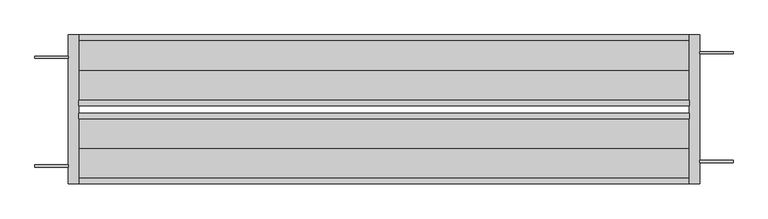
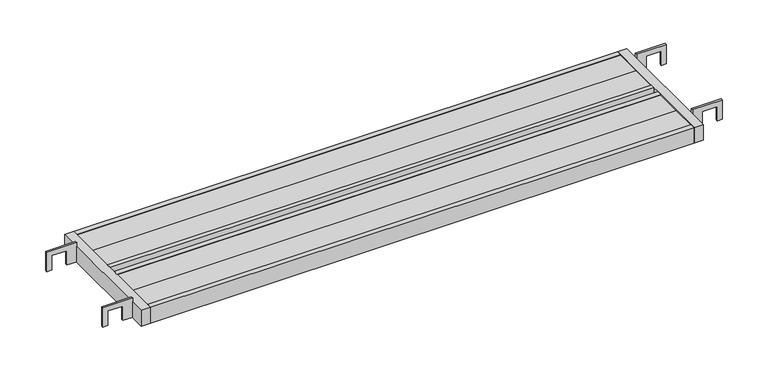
"""IFC4 building model written with IfcOpenShell, lengths in millimetres: proxy geometry, AKK布板HF-418_斜線なし_軽 : 鋼製布板 HF-418."""

from ifc_helpers import new_model, si_unit, frame, origin, place, context, project, spatial, polyline, outline, extrude, source, transform, mapped, element, save


def generic_models_952e4b3d(model_context):
    return source(origin(), model_context, "Body", "SweptSolid", [
        extrude(outline(polyline([(37.5, 1762.5), (-24.1, 1762.5), (-24.1, 1792.0), (22.0, 1792.0), (22.0, 1837.0), (-24.1, 1837.0), (-24.1, 1852.0), (37.5, 1852.0), (37.5, 1762.5)])), frame((0.0, 63.0, 0.0), z_axis=(0.0, 1.0, 0.0), x_axis=(0.0, 0.0, 1.0)), (0.0, 0.0, 1.0), 6.0),
        extrude(outline(polyline([(37.5, 1762.5), (-24.1, 1762.5), (-24.1, 1792.0), (22.0, 1792.0), (22.0, 1837.0), (-24.1, 1837.0), (-24.1, 1852.0), (37.5, 1852.0), (37.5, 1762.5)])), frame((0.0, 355.0, 0.0), z_axis=(0.0, 1.0, 0.0), x_axis=(0.0, 0.0, 1.0)), (0.0, 0.0, 1.0), 6.0),
        extrude(outline(polyline([(37.5, -23.0), (-24.1, -23.0), (-24.1, -8.0), (22.0, -8.0), (22.0, 37.0), (-24.1, 37.0), (-24.1, 66.5), (37.5, 66.5), (37.5, -23.0)])), frame((0.0, 51.0, 0.0), z_axis=(0.0, 1.0, 0.0), x_axis=(0.0, 0.0, 1.0)), (0.0, 0.0, 1.0), 6.0),
        extrude(outline(polyline([(37.5, -23.0), (-24.1, -23.0), (-24.1, -8.0), (22.0, -8.0), (22.0, 37.0), (-24.1, 37.0), (-24.1, 66.5), (37.5, 66.5), (37.5, -23.0)])), frame((0.0, 343.0, 0.0), z_axis=(0.0, 1.0, 0.0), x_axis=(0.0, 0.0, 1.0)), (0.0, 0.0, 1.0), 6.0),
        extrude(outline(polyline([(1734.5, 391.0), (1734.5, 311.0), (94.5, 311.0), (94.5, 391.0), (1734.5, 391.0)])), frame((0.0, 0.0, 20.0), z_axis=(0.0, 0.0, 1.0), x_axis=(1.0, 0.0, 0.0)), (0.0, 0.0, 1.0), 2.5),
        extrude(outline(polyline([(1734.5, 311.0), (1734.5, 231.0), (94.5, 231.0), (94.5, 311.0), (1734.5, 311.0)])), frame((0.0, 0.0, 20.0), z_axis=(0.0, 0.0, 1.0), x_axis=(1.0, 0.0, 0.0)), (0.0, 0.0, 1.0), 2.5),
        extrude(outline(polyline([(1734.5, 181.0), (1734.5, 101.0), (94.5, 101.0), (94.5, 181.0), (1734.5, 181.0)])), frame((0.0, 0.0, 20.0), z_axis=(0.0, 0.0, 1.0), x_axis=(1.0, 0.0, 0.0)), (0.0, 0.0, 1.0), 2.5),
        extrude(outline(polyline([(1734.5, 101.0), (1734.5, 21.0), (94.5, 21.0), (94.5, 101.0), (1734.5, 101.0)])), frame((0.0, 0.0, 20.0), z_axis=(0.0, 0.0, 1.0), x_axis=(1.0, 0.0, 0.0)), (0.0, 0.0, 1.0), 2.5),
        extrude(outline(polyline([(1734.5, 231.0), (1734.5, 216.0), (94.5, 216.0), (94.5, 231.0), (1734.5, 231.0)])), frame((0.0, 0.0, -25.0), z_axis=(0.0, 0.0, 1.0), x_axis=(1.0, 0.0, 0.0)), (0.0, 0.0, 1.0), 50.0),
        extrude(outline(polyline([(1734.5, 196.0), (1734.5, 181.0), (94.5, 181.0), (94.5, 196.0), (1734.5, 196.0)])), frame((0.0, 0.0, -25.0), z_axis=(0.0, 0.0, 1.0), x_axis=(1.0, 0.0, 0.0)), (0.0, 0.0, 1.0), 50.0),
        extrude(outline(polyline([(1734.5, 6.0), (1734.5, 406.0), (1762.5, 406.0), (1762.5, 6.0), (1734.5, 6.0)])), frame((0.0, 0.0, -25.0), z_axis=(0.0, 0.0, 1.0), x_axis=(1.0, 0.0, 0.0)), (0.0, 0.0, 1.0), 50.0),
        extrude(outline(polyline([(66.5, 6.0), (66.5, 406.0), (94.5, 406.0), (94.5, 6.0), (66.5, 6.0)])), frame((0.0, 0.0, -25.0), z_axis=(0.0, 0.0, 1.0), x_axis=(1.0, 0.0, 0.0)), (0.0, 0.0, 1.0), 50.0),
        extrude(outline(polyline([(1734.5, 406.0), (1734.5, 391.0), (94.5, 391.0), (94.5, 406.0), (1734.5, 406.0)])), frame((0.0, 0.0, -25.0), z_axis=(0.0, 0.0, 1.0), x_axis=(1.0, 0.0, 0.0)), (0.0, 0.0, 1.0), 50.0),
        extrude(outline(polyline([(1734.5, 21.0), (1734.5, 6.0), (94.5, 6.0), (94.5, 21.0), (1734.5, 21.0)])), frame((0.0, 0.0, -25.0), z_axis=(0.0, 0.0, 1.0), x_axis=(1.0, 0.0, 0.0)), (0.0, 0.0, 1.0), 50.0),
    ])


if __name__ == "__main__":
    model = new_model("IFC4")
    model_context = context("Model", 3, world=origin())
    ifc_project = project(units=[si_unit("LENGTHUNIT", "METRE", prefix="MILLI")], contexts=[model_context])
    site = spatial("IfcSite", under=ifc_project)
    building = spatial("IfcBuilding", under=site)
    placement = place(None, origin())
    generic_models_shape = generic_models_952e4b3d(model_context)
    element("IfcBuildingElementProxy", 1, Name="AKK布板HF-418_斜線なし_軽 : 鋼製布板 HF-418", ObjectType="AKK布板HF-418_斜線なし_軽 : 鋼製布板 HF-418", at=placement, inside=building, context=model_context, shape_type="MappedRepresentation", body=[
        mapped(generic_models_shape, transform((0.0, 0.0, 0.0), x_axis=(1.0, 0.0, 0.0), y_axis=(0.0, 1.0, 0.0), z_axis=(0.0, 0.0, 1.0))),
    ])
    save(model, "model.ifc")
